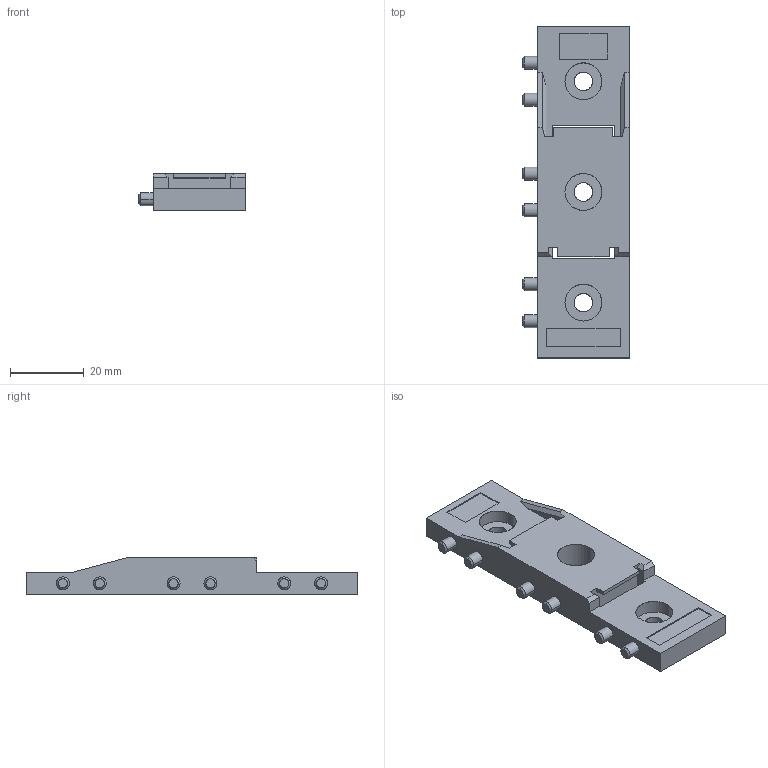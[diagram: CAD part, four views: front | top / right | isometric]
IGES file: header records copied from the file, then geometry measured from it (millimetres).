
Start section: SolidWorks IGES file using analytic representation for surfaces
Global section: file name: C:\catalog\afp0803.IGS; native system: SolidWorks 2010; preprocessor: SolidWorks 2010; author: E184722; date: 150703.105706; units: millimetre
Bounding box: 29 x 90 x 10 mm (x, y, z)
Surface area: 7961 mm2 (no closed solid volume)
Topology: 0 solids, 0 shells, 109 faces, 1628 edges, 1628 vertices
Faces by surface type: bspline 61, revolution 48
